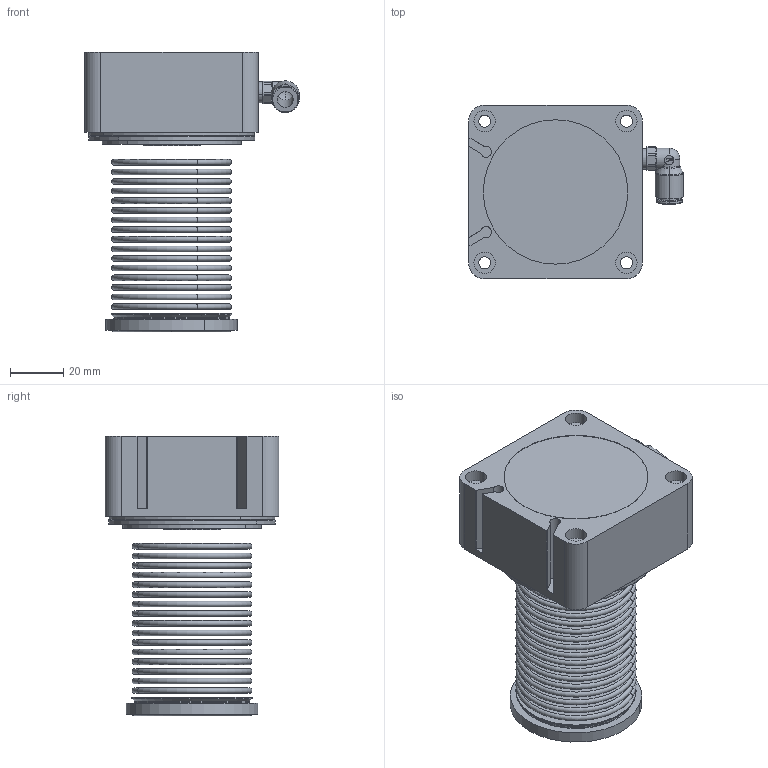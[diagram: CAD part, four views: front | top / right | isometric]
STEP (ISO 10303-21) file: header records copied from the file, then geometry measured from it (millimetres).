
FILE_DESCRIPTION (( 'STEP AP203' ), '1' );
FILE_NAME ('NAC-KF40-·§Ð¾1.STEP', '2023-04-16T04:37:37', ( '' ), ( '' ), 'SwSTEP 2.0', 'SolidWorks 2023', '' );
FILE_SCHEMA (( 'CONFIG_CONTROL_DESIGN' ));
Length unit declared in the file: millimetre
Products named in the file (1): NAC-KF40-阀芯1
Bounding box: 80.3 x 65 x 104.57 mm (x, y, z)
Surface area: 54759.5 mm2 (no closed solid volume)
Topology: 0 solids, 25 shells, 242 faces, 644 edges, 446 vertices
Faces by surface type: cylinder 93, plane 76, torus 56, cone 15, sphere 2
Entity records: 8039 total; most frequent: CARTESIAN_POINT 1644, DIRECTION 1506, ORIENTED_EDGE 1110, AXIS2_PLACEMENT_3D 666, EDGE_CURVE 643, VERTEX_POINT 446, CIRCLE 423, EDGE_LOOP 310
